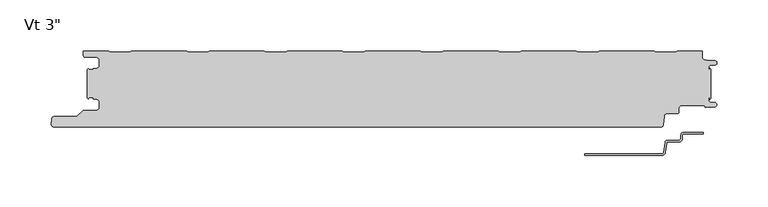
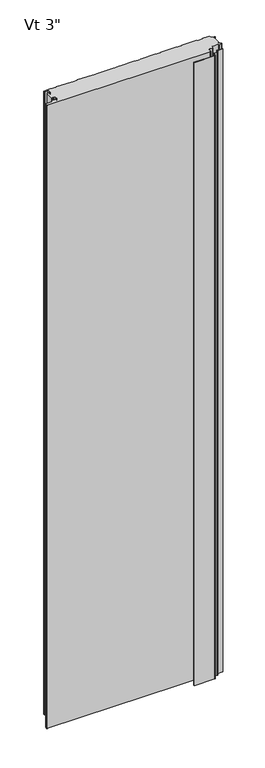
"""IFC4 building model written with IfcOpenShell, lengths in millimetres: plate geometry."""

from ifc_helpers import new_model, si_unit, frame, origin, place, context, project, spatial, polyline, circle_curve, source, transform, mapped, element, save
from ifc_brep_helpers import plane_surface, cylinder_surface, revolved_surface, advanced_brep


def plate_722da754(model_context):
    return source(origin(), model_context, "Body", "AdvancedBrep", [
        advanced_brep(
        [(278.4543181, -80.5008679, 0.0), (297.1995181, -80.5008679, 0.0), (297.1995181, -82.0248679, 0.0), (278.4543181, -82.0248679, 0.0), (276.9303181, -83.5488679, 0.0), (276.9303181, -86.6476679, 0.0), (273.4759181, -90.1020679, 0.0), (262.2633607, -90.1020679, 0.0), (261.5042604, -90.7976552, 0.0), (260.3094328, -100.3416507, 0.0), (257.2730313, -103.124, 0.0), (181.7057181, -103.1360323, 0.0), (181.7057181, -101.6, 0.0), (257.2730313, -101.6, 0.0), (258.7912321, -100.2088254, 0.0), (259.9860597, -90.6648299, 0.0), (262.2633607, -88.5780679, 0.0), (273.4759181, -88.5780679, 0.0), (275.4063181, -86.6476679, 0.0), (275.4063181, -83.5488679, 0.0), (278.4543181, -80.5008679, 2400.0), (275.4063181, -83.5488679, 2400.0), (275.4063181, -86.6476679, 2400.0), (273.4759181, -88.5780679, 2400.0), (262.2633607, -88.5780679, 2400.0), (259.9860597, -90.6648299, 2400.0), (258.7912321, -100.2088254, 2400.0), (257.2730313, -101.6, 2400.0), (181.7057181, -101.6, 2400.0), (181.7057181, -103.1360323, 2400.0), (257.2730313, -103.1360323, 2400.0), (260.3094328, -100.3416507, 2400.0), (261.5042604, -90.7976552, 2400.0), (262.2633607, -90.1020679, 2400.0), (273.4759181, -90.1020679, 2400.0), (276.9303181, -86.6476679, 2400.0), (276.9303181, -83.5488679, 2400.0), (278.4543181, -82.0248679, 2400.0), (297.1995181, -82.0248679, 2400.0), (297.1995181, -80.5008679, 2400.0)],
        [
            (0, 1),
            (1, 2),
            (2, 3),
            (3, 4, circle_curve(frame((278.4543181, -83.5488679, 0.0), z_axis=(0.0, 0.0, 1.0), x_axis=(0.0, 1.0, 0.0)), 1.524)),
            (4, 5),
            (5, 6, circle_curve(frame((273.4759181, -86.6476679, 0.0), z_axis=(0.0, 0.0, -1.0), x_axis=(0.0, 1.0, 0.0)), 3.4544)),
            (6, 7),
            (7, 8, circle_curve(frame((262.2633607, -90.8640679, 0.0), z_axis=(0.0, 0.0, 1.0), x_axis=(0.0, 1.0, 0.0)), 0.762)),
            (8, 9),
            (9, 10, circle_curve(frame((257.2730313, -100.076, 0.0), z_axis=(0.0, 0.0, -1.0), x_axis=(0.0, 1.0, 0.0)), 3.048)),
            (10, 11),
            (11, 12),
            (12, 13),
            (13, 14, circle_curve(frame((257.2730313, -100.076, 0.0), z_axis=(0.0, 0.0, 1.0), x_axis=(0.0, 1.0, 0.0)), 1.524)),
            (14, 15),
            (15, 16, circle_curve(frame((262.2633607, -90.8640679, 0.0), z_axis=(0.0, 0.0, -1.0), x_axis=(0.0, 1.0, 0.0)), 2.286)),
            (16, 17),
            (17, 18, circle_curve(frame((273.4759181, -86.6476679, 0.0), z_axis=(0.0, 0.0, 1.0), x_axis=(0.0, 1.0, 0.0)), 1.9304)),
            (18, 19),
            (19, 0, circle_curve(frame((278.4543181, -83.5488679, 0.0), z_axis=(0.0, 0.0, -1.0), x_axis=(0.0, 1.0, 0.0)), 3.048)),
            (20, 21, circle_curve(frame((278.4543181, -83.5488679, 2400.0), z_axis=(0.0, 0.0, 1.0), x_axis=(0.0, 1.0, 0.0)), 3.048)),
            (21, 22),
            (22, 23, circle_curve(frame((273.4759181, -86.6476679, 2400.0), z_axis=(0.0, 0.0, -1.0), x_axis=(0.0, 1.0, 0.0)), 1.9304)),
            (23, 24),
            (24, 25, circle_curve(frame((262.2633607, -90.8640679, 2400.0), z_axis=(0.0, 0.0, 1.0), x_axis=(0.0, 1.0, 0.0)), 2.286)),
            (25, 26),
            (26, 27, circle_curve(frame((257.2730313, -100.076, 2400.0), z_axis=(0.0, 0.0, -1.0), x_axis=(0.0, 1.0, 0.0)), 1.524)),
            (27, 28),
            (28, 29),
            (29, 30),
            (30, 31, circle_curve(frame((257.2730313, -100.076, 2400.0), z_axis=(0.0, 0.0, 1.0), x_axis=(0.0, 1.0, 0.0)), 3.048)),
            (31, 32),
            (32, 33, circle_curve(frame((262.2633607, -90.8640679, 2400.0), z_axis=(0.0, 0.0, -1.0), x_axis=(0.0, 1.0, 0.0)), 0.762)),
            (33, 34),
            (34, 35, circle_curve(frame((273.4759181, -86.6476679, 2400.0), z_axis=(0.0, 0.0, 1.0), x_axis=(0.0, 1.0, 0.0)), 3.4544)),
            (35, 36),
            (36, 37, circle_curve(frame((278.4543181, -83.5488679, 2400.0), z_axis=(0.0, 0.0, -1.0), x_axis=(0.0, 1.0, 0.0)), 1.524)),
            (37, 38),
            (38, 39),
            (39, 20),
            (2, 38),
            (37, 3),
            (15, 25),
            (24, 16),
            (7, 33),
            (32, 8),
            (5, 35),
            (34, 6),
            (1, 39),
            (36, 4),
            (9, 31),
            (30, 10),
            (13, 27),
            (26, 14),
            (0, 20),
            (12, 28),
            (29, 11),
            (23, 17),
            (18, 22),
            (21, 19),
        ],
        [
            plane_surface(frame((297.1995181, -101.6, 0.0), z_axis=(0.0, 0.0, -1.0), x_axis=(-1.0, 0.0, 0.0))),
            plane_surface(frame((297.1995181, -101.6, 2400.0), z_axis=(0.0, 0.0, 1.0), x_axis=(-1.0, 0.0, 0.0))),
            plane_surface(frame((278.4543181, -82.0248679, 0.0), z_axis=(0.0, -1.0, 0.0), x_axis=(0.0, 0.0, 1.0))),
            cylinder_surface(frame((262.2633607, -90.8640679, 0.0), z_axis=(0.0, 0.0, -1.0), x_axis=(0.0, 1.0, 0.0)), 2.286),
            revolved_surface(polyline([(262.2633607, -90.1020679, 2400.0), (262.2633607, -90.1020679, 0.0)]), (262.2633607, -90.8640679, 0.0), (0.0, 0.0, 1.0)),
            cylinder_surface(frame((273.4759181, -86.6476679, 0.0), z_axis=(0.0, 0.0, -1.0), x_axis=(0.0, 1.0, 0.0)), 3.4544),
            plane_surface(frame((297.1995181, -82.0248679, 0.0), z_axis=(1.0, 0.0, 0.0), x_axis=(0.0, 0.0, 1.0))),
            revolved_surface(polyline([(278.4543181, -82.0248679, 2400.0), (278.4543181, -82.0248679, 0.0)]), (278.4543181, -83.5488679, 0.0), (0.0, 0.0, 1.0)),
            cylinder_surface(frame((257.2730313, -100.076, 0.0), z_axis=(0.0, 0.0, -1.0), x_axis=(0.0, 1.0, 0.0)), 3.048),
            revolved_surface(polyline([(257.2730313, -98.55199999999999, 2400.0), (257.2730313, -98.55199999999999, 0.0)]), (257.2730313, -100.076, 0.0), (0.0, 0.0, 1.0)),
            plane_surface(frame((297.1995181, -80.5008679, 0.0), z_axis=(0.0, 1.0, 0.0), x_axis=(0.0, 0.0, 1.0))),
            plane_surface(frame((259.9860597, -90.6648299, 0.0), z_axis=(-0.992254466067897, 0.12422187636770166, 0.0), x_axis=(0.0, 0.0, 1.0))),
            plane_surface(frame((257.2730313, -101.6, 0.0), z_axis=(0.0, 1.0, 0.0), x_axis=(0.0, 0.0, 1.0))),
            plane_surface(frame((260.3094328, -100.3416507, 0.0), z_axis=(0.9922544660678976, -0.12422187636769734, 0.0), x_axis=(0.0, 0.0, 1.0))),
            plane_surface(frame((276.9303181, -86.6476679, 0.0), z_axis=(1.0, 0.0, 0.0), x_axis=(0.0, 0.0, 1.0))),
            plane_surface(frame((181.7057181, -103.1360323, 0.0), z_axis=(0.0, -1.0, 0.0), x_axis=(0.0, 0.0, 1.0))),
            plane_surface(frame((181.7057181, -101.6, 0.0), z_axis=(-1.0, 0.0, 0.0), x_axis=(0.0, 0.0, 1.0))),
            plane_surface(frame((273.4759181, -88.5780679, 0.0), z_axis=(0.0, 1.0, 0.0), x_axis=(0.0, 0.0, 1.0))),
            plane_surface(frame((275.4063181, -83.5488679, 0.0), z_axis=(-1.0, 0.0, 0.0), x_axis=(0.0, 0.0, 1.0))),
            plane_surface(frame((262.2633607, -90.1020679, 0.0), z_axis=(0.0, -1.0, 0.0), x_axis=(0.0, 0.0, 1.0))),
            revolved_surface(polyline([(273.4759181, -84.7172679, 2400.0), (273.4759181, -84.7172679, 0.0)]), (273.4759181, -86.6476679, 0.0), (0.0, 0.0, 1.0)),
            cylinder_surface(frame((278.4543181, -83.5488679, 0.0), z_axis=(0.0, 0.0, -1.0), x_axis=(0.0, 1.0, 0.0)), 3.048),
        ],
        [
            (0, [[1, 2, 3, 4, 5, 6, 7, 8, 9, 10, 11, 12, 13, 14, 15, 16, 17, 18, 19, 20]]),
            (1, [[21, 22, 23, 24, 25, 26, 27, 28, 29, 30, 31, 32, 33, 34, 35, 36, 37, 38, 39, 40]]),
            (2, [[41, -38, 42, -3]]),
            (3, [[43, -25, 44, -16]]),
            (4, [[45, -33, 46, -8]]),
            (5, [[47, -35, 48, -6]]),
            (6, [[49, -39, -41, -2]]),
            (7, [[-42, -37, 50, -4]]),
            (8, [[51, -31, 52, -10]]),
            (9, [[53, -27, 54, -14]]),
            (10, [[55, -40, -49, -1]]),
            (11, [[-54, -26, -43, -15]]),
            (12, [[56, -28, -53, -13]]),
            (13, [[-46, -32, -51, -9]]),
            (14, [[-50, -36, -47, -5]]),
            (15, [[-52, -30, 57, -11]]),
            (16, [[-57, -29, -56, -12]]),
            (17, [[-44, -24, 58, -17]]),
            (18, [[59, -22, 60, -19]]),
            (19, [[-48, -34, -45, -7]]),
            (20, [[-58, -23, -59, -18]]),
            (21, [[-60, -21, -55, -20]]),
        ],
    ),
        advanced_brep(
        [(-303.7683001, -47.870875, 2400.0), (-302.5671761, -46.7014003, 2400.0), (-298.8087827, -46.7014003, 2400.0), (-298.8087827, -48.0998791, 2400.0), (-296.1096717, -48.0998791, 2400.0), (-292.7596764, -51.4498744, 2400.0), (-292.7596764, -55.8498656, 2400.0), (-296.1096717, -59.1998609, 2400.0), (-307.9205608, -59.1998609, 2400.0), (-309.1226385, -59.6977778, 2400.0), (-314.6247096, -65.1998489, 2400.0), (-336.7198392, -65.1998489, 2400.0), (-339.3765709, -67.4184509, 2400.0), (-339.8125699, -72.4002718, 2400.0), (-337.2521176, -75.1945967, 2400.0), (256.315622, -75.2, 2400.0), (258.2669057, -73.4149259, 2400.0), (259.021161, -64.9539491, 2400.0), (262.1653654, -62.1906462, 2400.0), (272.2583308, -62.1906462, 2400.0), (273.2097394, -61.2392375, 2400.0), (273.2097394, -58.0955822, 2400.0), (277.2091924, -54.0961292, 2400.0), (298.3895515, -54.0961292, 2400.0), (299.5334028, -56.076977, 2400.0), (308.506811, -55.7217167, 2400.0), (308.5037148, -51.5211391, 2400.0), (304.4977997, -51.2767242, 2400.0), (302.7686884, -49.4819116, 2400.0), (302.7686884, -46.697365, 2400.0), (303.7686884, -46.697365, 2400.0), (303.7686884, -48.284865, 2400.0), (304.8, -47.2535534, 2400.0), (304.8, -18.6184525, 2400.0), (303.7686884, -17.5871409, 2400.0), (303.7686884, -19.0015288, 2400.0), (302.7686884, -19.0015288, 2400.0), (302.7686884, -16.6743462, 2400.0), (304.4513685, -14.9256429, 2400.0), (308.5921924, -14.7059822, 2400.0), (308.5931719, -10.4046442, 2400.0), (300.1016499, -9.9974365, 2400.0), (296.2787013, -6.0026007, 2400.0), (296.2787013, -1.0, 2400.0), (271.7794011, -1.0, 2400.0), (270.3937682, -2.2002307, 2400.0), (251.0186019, -2.2002307, 2400.0), (249.6329689, -1.0, 2400.0), (195.5795535, -1.0, 2400.0), (194.1939206, -2.2002307, 2400.0), (174.8187543, -2.2002307, 2400.0), (173.4331213, -1.0, 2400.0), (119.3797059, -1.0, 2400.0), (117.994073, -2.2002307, 2400.0), (98.6189067, -2.2002307, 2400.0), (97.2332737, -1.0, 2400.0), (43.1798583, -1.0, 2400.0), (41.7942254, -2.2002307, 2400.0), (22.4190591, -2.2002307, 2400.0), (21.0334261, -1.0, 2400.0), (-33.0199893, -1.0, 2400.0), (-34.4056222, -2.2002307, 2400.0), (-53.7807885, -2.2002307, 2400.0), (-55.1664215, -1.0, 2400.0), (-109.2198369, -1.0, 2400.0), (-110.6054698, -2.2002307, 2400.0), (-129.9806361, -2.2002307, 2400.0), (-131.3662691, -1.0, 2400.0), (-185.4196845, -1.0, 2400.0), (-186.8053174, -2.2002307, 2400.0), (-206.1804837, -2.2002307, 2400.0), (-207.5661167, -1.0, 2400.0), (-261.6195321, -1.0, 2400.0), (-263.005165, -2.2002307, 2400.0), (-282.3803313, -2.2002307, 2400.0), (-283.765974, -0.9999916, 2400.0), (-308.2662506, -0.9999916, 2400.0), (-308.2662506, -5.2315389, 2400.0), (-306.4962564, -7.0015331, 2400.0), (-296.0762778, -7.0015331, 2400.0), (-292.776282, -10.301529, 2400.0), (-292.776282, -14.7015202, 2400.0), (-296.0762777, -18.0015159, 2400.0), (-298.7684875, -18.0015159, 2400.0), (-298.7684875, -19.0015105, 2400.0), (-302.7686911, -19.0015105, 2400.0), (-303.7686883, -18.0015192, 2400.0), (-304.8, -19.0328308, 2400.0), (-304.8, -46.8391751, 2400.0), (-303.7683001, -47.870875, 0.0), (-304.8, -46.8391751, 0.0), (-304.8, -19.0328308, 0.0), (-303.7686883, -18.0015192, 0.0), (-302.7686911, -19.0015105, 0.0), (-298.7684875, -19.0015105, 0.0), (-298.7684875, -18.0015159, 0.0), (-296.0762777, -18.0015159, 0.0), (-292.776282, -14.7015202, 0.0), (-292.776282, -10.301529, 0.0), (-296.0762778, -7.0015331, 0.0), (-306.4962564, -7.0015331, 0.0), (-308.2662506, -5.2315389, 0.0), (-308.2662506, -0.9999916, 0.0), (-283.765974, -0.9999916, 0.0), (-282.3803313, -2.2002307, 0.0), (-263.005165, -2.2002307, 0.0), (-261.6195321, -1.0, 0.0), (-207.5661167, -1.0, 0.0), (-206.1804837, -2.2002307, 0.0), (-186.8053174, -2.2002307, 0.0), (-185.4196845, -1.0, 0.0), (-131.3662691, -1.0, 0.0), (-129.9806361, -2.2002307, 0.0), (-110.6054698, -2.2002307, 0.0), (-109.2198369, -1.0, 0.0), (-55.1664215, -1.0, 0.0), (-53.7807885, -2.2002307, 0.0), (-34.4056222, -2.2002307, 0.0), (-33.0199893, -1.0, 0.0), (21.0334261, -1.0, 0.0), (22.4190591, -2.2002307, 0.0), (41.7942254, -2.2002307, 0.0), (43.1798583, -1.0, 0.0), (97.2332737, -1.0, 0.0), (98.6189067, -2.2002307, 0.0), (117.994073, -2.2002307, 0.0), (119.3797059, -1.0, 0.0), (173.4331213, -1.0, 0.0), (174.8187543, -2.2002307, 0.0), (194.1939206, -2.2002307, 0.0), (195.5795535, -1.0, 0.0), (249.6329689, -1.0, 0.0), (251.0186019, -2.2002307, 0.0), (270.3937682, -2.2002307, 0.0), (271.7794011, -1.0, 0.0), (296.2787013, -1.0, 0.0), (296.2787013, -6.0026007, 0.0), (300.1016499, -9.9974365, 0.0), (308.5931719, -10.4046442, 0.0), (308.5921924, -14.7059822, 0.0), (304.4513685, -14.9256429, 0.0), (302.7686884, -16.6743462, 0.0), (302.7686884, -19.0015288, 0.0), (303.7686884, -19.0015288, 0.0), (303.7686884, -17.5871409, 0.0), (304.8, -18.6184525, 0.0), (304.8, -47.2535534, 0.0), (303.7686884, -48.284865, 0.0), (303.7686884, -46.697365, 0.0), (302.7686884, -46.697365, 0.0), (302.7686884, -49.4819116, 0.0), (304.4977997, -51.2767242, 0.0), (308.5037148, -51.5211391, 0.0), (308.506811, -55.7217167, 0.0), (299.5334028, -56.076977, 0.0), (298.3895515, -54.0961292, 0.0), (277.2091924, -54.0961292, 0.0), (273.2097394, -58.0955822, 0.0), (273.2097394, -61.2392375, 0.0), (272.2583308, -62.1906462, 0.0), (262.1653654, -62.1906462, 0.0), (259.021161, -64.9539491, 0.0), (258.2669057, -73.4149259, 0.0), (256.315622, -75.2, 0.0), (-337.2521176, -75.2, 0.0), (-339.8125699, -72.4002718, 0.0), (-339.3765709, -67.4184509, 0.0), (-336.7198392, -65.1998489, 0.0), (-314.6247096, -65.1998489, 0.0), (-309.1226385, -59.6977778, 0.0), (-307.9205608, -59.1998609, 0.0), (-296.1096717, -59.1998609, 0.0), (-292.7596764, -55.8498656, 0.0), (-292.7596764, -51.4498744, 0.0), (-296.1096717, -48.0998791, 0.0), (-298.8087827, -48.0998791, 0.0), (-298.8087827, -46.7014003, 0.0), (-302.5671761, -46.7014003, 0.0)],
        [
            (0, 1, circle_curve(frame((-302.5686908, -47.9013969, 2400.0), z_axis=(0.0, 0.0, -1.0), x_axis=(-1.0, 0.0, 0.0)), 1.1999976)),
            (1, 2),
            (2, 3),
            (3, 4),
            (4, 5, circle_curve(frame((-296.1096717, -51.4498744, 2400.0), z_axis=(0.0, 0.0, -1.0), x_axis=(-1.0, 0.0, 0.0)), 3.3499953)),
            (5, 6),
            (6, 7, circle_curve(frame((-296.1096717, -55.8498656, 2400.0), z_axis=(0.0, 0.0, -1.0), x_axis=(-1.0, 0.0, 0.0)), 3.3499953)),
            (7, 8),
            (8, 9, circle_curve(frame((-307.9205608, -60.8998555, 2400.0), z_axis=(0.0, 0.0, 1.0), x_axis=(-1.0, 0.0, 0.0)), 1.6999946)),
            (9, 10),
            (10, 11),
            (11, 12, circle_curve(frame((-336.7198392, -67.8998415, 2400.0), z_axis=(0.0, 0.0, 1.0), x_axis=(-1.0, 0.0, 0.0)), 2.6999926)),
            (12, 13),
            (13, 14, circle_curve(frame((-337.2521176, -72.6243575, 2400.0), z_axis=(0.0, 0.0, 1.0), x_axis=(-1.0, 0.0, 0.0)), 2.5702393)),
            (14, 15),
            (15, 16, circle_curve(frame((256.315622, -73.2409784, 2400.0), z_axis=(0.0, 0.0, 1.0), x_axis=(-1.0, 0.0, 0.0)), 1.9590216)),
            (16, 17),
            (17, 18, circle_curve(frame((262.0396267, -65.2180321, 2400.0), z_axis=(0.0, 0.0, -1.0), x_axis=(-1.0, 0.0, 0.0)), 3.0299959)),
            (18, 19),
            (19, 20, circle_curve(frame((272.2583308, -61.2392375, 2400.0), z_axis=(0.0, 0.0, 1.0), x_axis=(-1.0, 0.0, 0.0)), 0.9514087)),
            (20, 21),
            (21, 22, circle_curve(frame((277.2091924, -58.0955822, 2400.0), z_axis=(0.0, 0.0, -1.0), x_axis=(-1.0, 0.0, 0.0)), 3.9994529)),
            (22, 23),
            (23, 24),
            (24, 25),
            (25, 26, circle_curve(frame((308.4236622, -53.621488, 2400.0), z_axis=(0.0, 0.0, 1.0), x_axis=(-1.0, 0.0, 0.0)), 2.1018739)),
            (26, 27),
            (27, 28, circle_curve(frame((304.6099653, -49.4383506, 2400.0), z_axis=(0.0, 0.0, -1.0), x_axis=(-1.0, 0.0, 0.0)), 1.8417922)),
            (28, 29),
            (29, 30),
            (30, 31),
            (31, 32),
            (32, 33),
            (33, 34),
            (34, 35),
            (35, 36),
            (36, 37),
            (37, 38, circle_curve(frame((304.5186869, -16.6743462, 2400.0), z_axis=(0.0, 0.0, -1.0), x_axis=(1.0, 0.0, 0.0)), 1.7499985)),
            (38, 39),
            (39, 40, circle_curve(frame((308.4781032, -12.5552871, 2400.0), z_axis=(0.0, 0.0, 1.0), x_axis=(1.0, 0.0, 0.0)), 2.153719)),
            (40, 41),
            (41, 42, circle_curve(frame((300.2939817, -5.9867338, 2400.0), z_axis=(0.0, 0.0, -1.0), x_axis=(1.0, 0.0, 0.0)), 4.0153117)),
            (42, 43),
            (43, 44),
            (44, 45),
            (45, 46),
            (46, 47),
            (47, 48),
            (48, 49),
            (49, 50),
            (50, 51),
            (51, 52),
            (52, 53),
            (53, 54),
            (54, 55),
            (55, 56),
            (56, 57),
            (57, 58),
            (58, 59),
            (59, 60),
            (60, 61),
            (61, 62),
            (62, 63),
            (63, 64),
            (64, 65),
            (65, 66),
            (66, 67),
            (67, 68),
            (68, 69),
            (69, 70),
            (70, 71),
            (71, 72),
            (72, 73),
            (73, 74),
            (74, 75),
            (75, 76),
            (76, 77),
            (77, 78, circle_curve(frame((-306.4962564, -5.2315389, 2400.0), z_axis=(0.0, 0.0, 1.0), x_axis=(1.0, 0.0, 0.0)), 1.7699942)),
            (78, 79),
            (79, 80, circle_curve(frame((-296.0762778, -10.301529, 2400.0), z_axis=(0.0, 0.0, -1.0), x_axis=(1.0, 0.0, 0.0)), 3.2999959)),
            (80, 81),
            (81, 82, circle_curve(frame((-296.0762777, -14.7015202, 2400.0), z_axis=(0.0, 0.0, -1.0), x_axis=(1.0, 0.0, 0.0)), 3.2999957)),
            (82, 83),
            (83, 84),
            (84, 85),
            (85, 86, circle_curve(frame((-302.7686911, -18.0015133, 2400.0), z_axis=(0.0, 0.0, -1.0), x_axis=(1.0, 0.0, 0.0)), 0.9999972)),
            (86, 87),
            (87, 88),
            (88, 0),
            (89, 90),
            (90, 91),
            (91, 92),
            (92, 93, circle_curve(frame((-302.7686911, -18.0015133, 0.0), z_axis=(0.0, 0.0, 1.0), x_axis=(1.0, 0.0, 0.0)), 0.9999972)),
            (93, 94),
            (94, 95),
            (95, 96),
            (96, 97, circle_curve(frame((-296.0762777, -14.7015202, 0.0), z_axis=(0.0, 0.0, 1.0), x_axis=(1.0, 0.0, 0.0)), 3.2999957)),
            (97, 98),
            (98, 99, circle_curve(frame((-296.0762778, -10.301529, 0.0), z_axis=(0.0, 0.0, 1.0), x_axis=(1.0, 0.0, 0.0)), 3.2999959)),
            (99, 100),
            (100, 101, circle_curve(frame((-306.4962564, -5.2315389, 0.0), z_axis=(0.0, 0.0, -1.0), x_axis=(1.0, 0.0, 0.0)), 1.7699942)),
            (101, 102),
            (102, 103),
            (103, 104),
            (104, 105),
            (105, 106),
            (106, 107),
            (107, 108),
            (108, 109),
            (109, 110),
            (110, 111),
            (111, 112),
            (112, 113),
            (113, 114),
            (114, 115),
            (115, 116),
            (116, 117),
            (117, 118),
            (118, 119),
            (119, 120),
            (120, 121),
            (121, 122),
            (122, 123),
            (123, 124),
            (124, 125),
            (125, 126),
            (126, 127),
            (127, 128),
            (128, 129),
            (129, 130),
            (130, 131),
            (131, 132),
            (132, 133),
            (133, 134),
            (134, 135),
            (135, 136),
            (136, 137, circle_curve(frame((300.2939817, -5.9867338, 0.0), z_axis=(0.0, 0.0, 1.0), x_axis=(1.0, 0.0, 0.0)), 4.0153117)),
            (137, 138),
            (138, 139, circle_curve(frame((308.4781032, -12.5552871, 0.0), z_axis=(0.0, 0.0, -1.0), x_axis=(1.0, 0.0, 0.0)), 2.153719)),
            (139, 140),
            (140, 141, circle_curve(frame((304.5186869, -16.6743462, 0.0), z_axis=(0.0, 0.0, 1.0), x_axis=(1.0, 0.0, 0.0)), 1.7499985)),
            (141, 142),
            (142, 143),
            (143, 144),
            (144, 145),
            (145, 146),
            (146, 147),
            (147, 148),
            (148, 149),
            (149, 150),
            (150, 151, circle_curve(frame((304.6099653, -49.4383506, 0.0), z_axis=(0.0, 0.0, 1.0), x_axis=(-1.0, 0.0, 0.0)), 1.8417922)),
            (151, 152),
            (152, 153, circle_curve(frame((308.4236622, -53.621488, 0.0), z_axis=(0.0, 0.0, -1.0), x_axis=(-1.0, 0.0, 0.0)), 2.1018739)),
            (153, 154),
            (154, 155),
            (155, 156),
            (156, 157, circle_curve(frame((277.2091924, -58.0955822, 0.0), z_axis=(0.0, 0.0, 1.0), x_axis=(-1.0, 0.0, 0.0)), 3.9994529)),
            (157, 158),
            (158, 159, circle_curve(frame((272.2583308, -61.2392375, 0.0), z_axis=(0.0, 0.0, -1.0), x_axis=(-1.0, 0.0, 0.0)), 0.9514087)),
            (159, 160),
            (160, 161, circle_curve(frame((262.0396267, -65.2180321, 0.0), z_axis=(0.0, 0.0, 1.0), x_axis=(-1.0, 0.0, 0.0)), 3.0299959)),
            (161, 162),
            (162, 163, circle_curve(frame((256.315622, -73.2409784, 0.0), z_axis=(0.0, 0.0, -1.0), x_axis=(-1.0, 0.0, 0.0)), 1.9590216)),
            (163, 164),
            (164, 165, circle_curve(frame((-337.2521176, -72.6243575, 0.0), z_axis=(0.0, 0.0, -1.0), x_axis=(-1.0, 0.0, 0.0)), 2.5702393)),
            (165, 166),
            (166, 167, circle_curve(frame((-336.7198392, -67.8998415, 0.0), z_axis=(0.0, 0.0, -1.0), x_axis=(-1.0, 0.0, 0.0)), 2.6999926)),
            (167, 168),
            (168, 169),
            (169, 170, circle_curve(frame((-307.9205608, -60.8998555, 0.0), z_axis=(0.0, 0.0, -1.0), x_axis=(-1.0, 0.0, 0.0)), 1.6999946)),
            (170, 171),
            (171, 172, circle_curve(frame((-296.1096717, -55.8498656, 0.0), z_axis=(0.0, 0.0, 1.0), x_axis=(-1.0, 0.0, 0.0)), 3.3499953)),
            (172, 173),
            (173, 174, circle_curve(frame((-296.1096717, -51.4498744, 0.0), z_axis=(0.0, 0.0, 1.0), x_axis=(-1.0, 0.0, 0.0)), 3.3499953)),
            (174, 175),
            (175, 176),
            (176, 177),
            (177, 89, circle_curve(frame((-302.5686908, -47.9013969, 0.0), z_axis=(0.0, 0.0, 1.0), x_axis=(-1.0, 0.0, 0.0)), 1.1999976)),
            (88, 90),
            (89, 0),
            (87, 91),
            (32, 146),
            (145, 33),
            (31, 147),
            (30, 148),
            (29, 149),
            (28, 150),
            (27, 151),
            (26, 152),
            (25, 153),
            (24, 154),
            (23, 155),
            (22, 156),
            (21, 157),
            (20, 158),
            (19, 159),
            (18, 160),
            (17, 161),
            (16, 162),
            (15, 163),
            (14, 164),
            (13, 165),
            (12, 166),
            (11, 167),
            (10, 168),
            (9, 169),
            (8, 170),
            (7, 171),
            (6, 172),
            (5, 173),
            (4, 174),
            (3, 175),
            (2, 176),
            (1, 177),
            (86, 92),
            (85, 93),
            (84, 94),
            (83, 95),
            (82, 96),
            (81, 97),
            (80, 98),
            (79, 99),
            (78, 100),
            (77, 101),
            (76, 102),
            (41, 137),
            (136, 42),
            (40, 138),
            (39, 139),
            (38, 140),
            (37, 141),
            (36, 142),
            (35, 143),
            (34, 144),
            (74, 104),
            (103, 75),
            (73, 105),
            (72, 106),
            (71, 107),
            (70, 108),
            (69, 109),
            (68, 110),
            (67, 111),
            (66, 112),
            (65, 113),
            (64, 114),
            (63, 115),
            (62, 116),
            (61, 117),
            (60, 118),
            (59, 119),
            (58, 120),
            (57, 121),
            (56, 122),
            (55, 123),
            (54, 124),
            (53, 125),
            (52, 126),
            (51, 127),
            (50, 128),
            (49, 129),
            (48, 130),
            (47, 131),
            (46, 132),
            (45, 133),
            (44, 134),
            (43, 135),
        ],
        [
            plane_surface(frame((0.0, -75.2, 2400.0), z_axis=(0.0, 0.0, 1.0), x_axis=(0.0, -1.0, 0.0))),
            plane_surface(frame((0.0, -75.2, 0.0), z_axis=(0.0, 0.0, -1.0), x_axis=(0.0, -1.0, 0.0))),
            plane_surface(frame((-303.7683001, -47.870875, 2400.0), z_axis=(-0.7071067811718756, -0.7071067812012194, 0.0), x_axis=(0.0, 0.0, -1.0))),
            plane_surface(frame((-304.8, -46.8391751, 2400.0), z_axis=(-1.0, 0.0, 0.0), x_axis=(0.0, 0.0, -1.0))),
            plane_surface(frame((304.8, -45.8391751, 2400.0), z_axis=(1.0, 0.0, 0.0), x_axis=(0.0, 0.0, -1.0))),
            plane_surface(frame((304.8, -47.2535534, 2400.0), z_axis=(0.7071067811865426, -0.7071067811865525, 0.0), x_axis=(0.0, 0.0, -1.0))),
            plane_surface(frame((303.7686884, -48.284865, 2400.0), z_axis=(-1.0, 0.0, 0.0), x_axis=(0.0, 0.0, -1.0))),
            plane_surface(frame((303.7686884, -46.697365, 2400.0), z_axis=(0.0, -1.0, 0.0), x_axis=(0.0, 0.0, -1.0))),
            plane_surface(frame((302.7686884, -46.697365, 2400.0), z_axis=(1.0, 0.0, 0.0), x_axis=(0.0, 0.0, -1.0))),
            revolved_surface(polyline([(302.7681731, -49.4383506, 0.0), (302.7681731, -49.4383506, 2400.0)]), (304.6099653, -49.4383506, 2400.0), (0.0, 0.0, -1.0)),
            plane_surface(frame((304.4977997, -51.2767242, 2400.0), z_axis=(0.06090025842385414, 0.9981438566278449, 0.0), x_axis=(0.0, 0.0, -1.0))),
            cylinder_surface(frame((308.4236622, -53.621488, 2400.0), z_axis=(0.0, 0.0, 1.0), x_axis=(-1.0, 0.0, 0.0)), 2.1018739),
            plane_surface(frame((308.506811, -55.7217167, 2400.0), z_axis=(0.03955935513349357, -0.9992172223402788, 0.0), x_axis=(0.0, 0.0, -1.0))),
            plane_surface(frame((299.5334028, -56.076977, 2400.0), z_axis=(-0.8659859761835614, -0.5000682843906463, 0.0), x_axis=(0.0, 0.0, -1.0))),
            plane_surface(frame((298.3895515, -54.0961292, 2400.0), z_axis=(0.0, -1.0, 0.0), x_axis=(0.0, 0.0, -1.0))),
            revolved_surface(polyline([(273.2097395, -58.0955822, 0.0), (273.2097395, -58.0955822, 2400.0)]), (277.2091924, -58.0955822, 2400.0), (0.0, 0.0, -1.0)),
            plane_surface(frame((273.2097394, -58.0955822, 2400.0), z_axis=(1.0, 0.0, 0.0), x_axis=(0.0, 0.0, -1.0))),
            cylinder_surface(frame((272.2583308, -61.2392375, 2400.0), z_axis=(0.0, 0.0, 1.0), x_axis=(-1.0, 0.0, 0.0)), 0.9514087),
            plane_surface(frame((272.2583308, -62.1906462, 2400.0), z_axis=(0.0, -1.0, 0.0), x_axis=(0.0, 0.0, -1.0))),
            revolved_surface(polyline([(259.00963079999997, -65.2180321, 0.0), (259.00963079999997, -65.2180321, 2400.0)]), (262.0396267, -65.2180321, 2400.0), (0.0, 0.0, -1.0)),
            plane_surface(frame((259.021161, -64.9539491, 2400.0), z_axis=(0.9960500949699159, -0.08879306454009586, 0.0), x_axis=(0.0, 0.0, -1.0))),
            cylinder_surface(frame((256.315622, -73.2409784, 2400.0), z_axis=(0.0, 0.0, 1.0), x_axis=(-1.0, 0.0, 0.0)), 1.9590216),
            plane_surface(frame((256.315622, -75.2, 2400.0), z_axis=(0.0, -1.0, 0.0), x_axis=(0.0, 0.0, -1.0))),
            cylinder_surface(frame((-337.2521176, -72.6243575, 2400.0), z_axis=(0.0, 0.0, 1.0), x_axis=(-1.0, 0.0, 0.0)), 2.5702393),
            plane_surface(frame((-339.8125699, -72.4002718, 2400.0), z_axis=(-0.9961921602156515, 0.08718474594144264, 0.0), x_axis=(0.0, 0.0, -1.0))),
            cylinder_surface(frame((-336.7198392, -67.8998415, 2400.0), z_axis=(0.0, 0.0, 1.0), x_axis=(-1.0, 0.0, 0.0)), 2.6999926),
            plane_surface(frame((-336.7198392, -65.1998489, 2400.0), z_axis=(0.0, 1.0, 0.0), x_axis=(0.0, 0.0, -1.0))),
            plane_surface(frame((-314.6247096, -65.1998489, 2400.0), z_axis=(-0.7071067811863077, 0.7071067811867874, 0.0), x_axis=(0.0, 0.0, -1.0))),
            cylinder_surface(frame((-307.9205608, -60.8998555, 2400.0), z_axis=(0.0, 0.0, 1.0), x_axis=(-1.0, 0.0, 0.0)), 1.6999946),
            plane_surface(frame((-307.9205608, -59.1998609, 2400.0), z_axis=(0.0, 1.0, 0.0), x_axis=(0.0, 0.0, -1.0))),
            revolved_surface(polyline([(-299.45966699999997, -55.8498656, 0.0), (-299.45966699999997, -55.8498656, 2400.0)]), (-296.1096717, -55.8498656, 2400.0), (0.0, 0.0, -1.0)),
            plane_surface(frame((-292.7596764, -55.8498656, 2400.0), z_axis=(-1.0, 0.0, 0.0), x_axis=(0.0, 0.0, -1.0))),
            revolved_surface(polyline([(-299.45966699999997, -51.4498744, 0.0), (-299.45966699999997, -51.4498744, 2400.0)]), (-296.1096717, -51.4498744, 2400.0), (0.0, 0.0, -1.0)),
            plane_surface(frame((-296.1096717, -48.0998791, 2400.0), z_axis=(0.0, -1.0, 0.0), x_axis=(0.0, 0.0, -1.0))),
            plane_surface(frame((-298.8087827, -48.0998791, 2400.0), z_axis=(-1.0, 0.0, 0.0), x_axis=(0.0, 0.0, -1.0))),
            plane_surface(frame((-298.8087827, -46.7014003, 2400.0), z_axis=(0.0, -1.0, 0.0), x_axis=(0.0, 0.0, -1.0))),
            revolved_surface(polyline([(-303.76868840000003, -47.9013969, 0.0), (-303.76868840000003, -47.9013969, 2400.0)]), (-302.5686908, -47.9013969, 2400.0), (0.0, 0.0, -1.0)),
            plane_surface(frame((-304.8, -19.0328308, 2400.0), z_axis=(-0.7071067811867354, 0.7071067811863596, 0.0), x_axis=(0.0, 0.0, -1.0))),
            revolved_surface(polyline([(-301.7686939, -18.0015133, 0.0), (-301.7686939, -18.0015133, 2400.0)]), (-302.7686911, -18.0015133, 2400.0), (0.0, 0.0, -1.0)),
            plane_surface(frame((-302.7686911, -19.0015105, 2400.0), z_axis=(0.0, 1.0, 0.0), x_axis=(0.0, 0.0, -1.0))),
            plane_surface(frame((-298.7684875, -19.0015105, 2400.0), z_axis=(-1.0, 0.0, 0.0), x_axis=(0.0, 0.0, -1.0))),
            plane_surface(frame((-298.7684875, -18.0015159, 2400.0), z_axis=(0.0, 1.0, 0.0), x_axis=(0.0, 0.0, -1.0))),
            revolved_surface(polyline([(-292.776282, -14.7015202, 0.0), (-292.776282, -14.7015202, 2400.0)]), (-296.0762777, -14.7015202, 2400.0), (0.0, 0.0, -1.0)),
            plane_surface(frame((-292.776282, -14.7015202, 2400.0), z_axis=(-1.0, 0.0, 0.0), x_axis=(0.0, 0.0, -1.0))),
            revolved_surface(polyline([(-292.7762819, -10.301529, 0.0), (-292.7762819, -10.301529, 2400.0)]), (-296.0762778, -10.301529, 2400.0), (0.0, 0.0, -1.0)),
            plane_surface(frame((-296.0762778, -7.0015331, 2400.0), z_axis=(0.0, -1.0, 0.0), x_axis=(0.0, 0.0, -1.0))),
            cylinder_surface(frame((-306.4962564, -5.2315389, 2400.0), z_axis=(0.0, 0.0, 1.0), x_axis=(1.0, 0.0, 0.0)), 1.7699942),
            plane_surface(frame((-308.2662506, -5.2315389, 2400.0), z_axis=(-1.0, 0.0, 0.0), x_axis=(0.0, 0.0, -1.0))),
            revolved_surface(polyline([(304.3092934, -5.9867338, 0.0), (304.3092934, -5.9867338, 2400.0)]), (300.2939817, -5.9867338, 2400.0), (0.0, 0.0, -1.0)),
            plane_surface(frame((300.1016499, -9.9974365, 2400.0), z_axis=(0.047899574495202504, 0.9988521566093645, 0.0), x_axis=(0.0, 0.0, -1.0))),
            cylinder_surface(frame((308.4781032, -12.5552871, 2400.0), z_axis=(0.0, 0.0, 1.0), x_axis=(1.0, 0.0, 0.0)), 2.153719),
            plane_surface(frame((308.5921924, -14.7059822, 2400.0), z_axis=(0.05297310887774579, -0.9985959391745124, 0.0), x_axis=(0.0, 0.0, -1.0))),
            revolved_surface(polyline([(306.2686854, -16.6743462, 0.0), (306.2686854, -16.6743462, 2400.0)]), (304.5186869, -16.6743462, 2400.0), (0.0, 0.0, -1.0)),
            plane_surface(frame((302.7686884, -16.6743462, 2400.0), z_axis=(1.0, 0.0, 0.0), x_axis=(0.0, 0.0, -1.0))),
            plane_surface(frame((302.7686884, -19.0015288, 2400.0), z_axis=(0.0, 1.0, 0.0), x_axis=(0.0, 0.0, -1.0))),
            plane_surface(frame((303.7686884, -19.0015288, 2400.0), z_axis=(-1.0, 0.0, 0.0), x_axis=(0.0, 0.0, -1.0))),
            plane_surface(frame((303.7686884, -17.5871409, 2400.0), z_axis=(0.7071067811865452, 0.7071067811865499, 0.0), x_axis=(0.0, 0.0, -1.0))),
            plane_surface(frame((-283.765974, -0.9999916, 2400.0), z_axis=(0.6547276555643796, 0.7558648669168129, 0.0), x_axis=(0.0, 0.0, -1.0))),
            plane_surface(frame((-308.2662506, -0.9999916, 2400.0), z_axis=(0.0, 1.0, 0.0), x_axis=(0.0, 0.0, -1.0))),
            plane_surface(frame((-282.3803313, -2.2002307, 2400.0), z_axis=(0.0, 1.0, 0.0), x_axis=(0.0, 0.0, -1.0))),
            plane_surface(frame((-263.005165, -2.2002307, 2400.0), z_axis=(-0.6547276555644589, 0.7558648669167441, 0.0), x_axis=(0.0, 0.0, -1.0))),
            plane_surface(frame((-261.6195321, -1.0, 2400.0), z_axis=(0.0, 1.0, 0.0), x_axis=(0.0, 0.0, -1.0))),
            plane_surface(frame((-207.5661167, -1.0, 2400.0), z_axis=(0.6547276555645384, 0.7558648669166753, 0.0), x_axis=(0.0, 0.0, -1.0))),
            plane_surface(frame((-206.1804837, -2.2002307, 2400.0), z_axis=(0.0, 1.0, 0.0), x_axis=(0.0, 0.0, -1.0))),
            plane_surface(frame((-186.8053174, -2.2002307, 2400.0), z_axis=(-0.6547276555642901, 0.7558648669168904, 0.0), x_axis=(0.0, 0.0, -1.0))),
            plane_surface(frame((-185.4196845, -1.0, 2400.0), z_axis=(0.0, 1.0, 0.0), x_axis=(0.0, 0.0, -1.0))),
            plane_surface(frame((-131.3662691, -1.0, 2400.0), z_axis=(0.6547276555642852, 0.7558648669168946, 0.0), x_axis=(0.0, 0.0, -1.0))),
            plane_surface(frame((-129.9806361, -2.2002307, 2400.0), z_axis=(0.0, 1.0, 0.0), x_axis=(0.0, 0.0, -1.0))),
            plane_surface(frame((-110.6054698, -2.2002307, 2400.0), z_axis=(-0.6547276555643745, 0.7558648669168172, 0.0), x_axis=(0.0, 0.0, -1.0))),
            plane_surface(frame((-109.2198369, -1.0, 2400.0), z_axis=(0.0, 1.0, 0.0), x_axis=(0.0, 0.0, -1.0))),
            plane_surface(frame((-55.1664215, -1.0, 2400.0), z_axis=(0.6547276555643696, 0.7558648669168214, 0.0), x_axis=(0.0, 0.0, -1.0))),
            plane_surface(frame((-53.7807885, -2.2002307, 2400.0), z_axis=(0.0, 1.0, 0.0), x_axis=(0.0, 0.0, -1.0))),
            plane_surface(frame((-34.4056222, -2.2002307, 2400.0), z_axis=(-0.6547276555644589, 0.7558648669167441, 0.0), x_axis=(0.0, 0.0, -1.0))),
            plane_surface(frame((-33.0199893, -1.0, 2400.0), z_axis=(0.0, 1.0, 0.0), x_axis=(0.0, 0.0, -1.0))),
            plane_surface(frame((21.0334261, -1.0, 2400.0), z_axis=(0.654727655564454, 0.7558648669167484, 0.0), x_axis=(0.0, 0.0, -1.0))),
            plane_surface(frame((22.4190591, -2.2002307, 2400.0), z_axis=(0.0, 1.0, 0.0), x_axis=(0.0, 0.0, -1.0))),
            plane_surface(frame((41.7942254, -2.2002307, 2400.0), z_axis=(-0.6547276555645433, 0.7558648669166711, 0.0), x_axis=(0.0, 0.0, -1.0))),
            plane_surface(frame((43.1798583, -1.0, 2400.0), z_axis=(0.0, 1.0, 0.0), x_axis=(0.0, 0.0, -1.0))),
            plane_surface(frame((97.2332737, -1.0, 2400.0), z_axis=(0.6547276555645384, 0.7558648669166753, 0.0), x_axis=(0.0, 0.0, -1.0))),
            plane_surface(frame((98.6189067, -2.2002307, 2400.0), z_axis=(0.0, 1.0, 0.0), x_axis=(0.0, 0.0, -1.0))),
            plane_surface(frame((117.994073, -2.2002307, 2400.0), z_axis=(-0.654727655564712, 0.755864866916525, 0.0), x_axis=(0.0, 0.0, -1.0))),
            plane_surface(frame((119.3797059, -1.0, 2400.0), z_axis=(0.0, 1.0, 0.0), x_axis=(0.0, 0.0, -1.0))),
            plane_surface(frame((173.4331213, -1.0, 2400.0), z_axis=(0.6547276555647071, 0.7558648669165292, 0.0), x_axis=(0.0, 0.0, -1.0))),
            plane_surface(frame((174.8187543, -2.2002307, 2400.0), z_axis=(0.0, 1.0, 0.0), x_axis=(0.0, 0.0, -1.0))),
            plane_surface(frame((194.1939206, -2.2002307, 2400.0), z_axis=(-0.654727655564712, 0.755864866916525, 0.0), x_axis=(0.0, 0.0, -1.0))),
            plane_surface(frame((195.5795535, -1.0, 2400.0), z_axis=(0.0, 1.0, 0.0), x_axis=(0.0, 0.0, -1.0))),
            plane_surface(frame((249.6329689, -1.0, 2400.0), z_axis=(0.6547276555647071, 0.7558648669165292, 0.0), x_axis=(0.0, 0.0, -1.0))),
            plane_surface(frame((251.0186019, -2.2002307, 2400.0), z_axis=(0.0, 1.0, 0.0), x_axis=(0.0, 0.0, -1.0))),
            plane_surface(frame((270.3937682, -2.2002307, 2400.0), z_axis=(-0.6547276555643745, 0.7558648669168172, 0.0), x_axis=(0.0, 0.0, -1.0))),
            plane_surface(frame((271.7794011, -1.0, 2400.0), z_axis=(0.0, 1.0, 0.0), x_axis=(0.0, 0.0, -1.0))),
            plane_surface(frame((296.2787013, -1.0, 2400.0), z_axis=(1.0, 0.0, 0.0), x_axis=(0.0, 0.0, -1.0))),
        ],
        [
            (0, [[1, 2, 3, 4, 5, 6, 7, 8, 9, 10, 11, 12, 13, 14, 15, 16, 17, 18, 19, 20, 21, 22, 23, 24, 25, 26, 27, 28, 29, 30, 31, 32, 33, 34, 35, 36, 37, 38, 39, 40, 41, 42, 43, 44, 45, 46, 47, 48, 49, 50, 51, 52, 53, 54, 55, 56, 57, 58, 59, 60, 61, 62, 63, 64, 65, 66, 67, 68, 69, 70, 71, 72, 73, 74, 75, 76, 77, 78, 79, 80, 81, 82, 83, 84, 85, 86, 87, 88, 89]]),
            (1, [[90, 91, 92, 93, 94, 95, 96, 97, 98, 99, 100, 101, 102, 103, 104, 105, 106, 107, 108, 109, 110, 111, 112, 113, 114, 115, 116, 117, 118, 119, 120, 121, 122, 123, 124, 125, 126, 127, 128, 129, 130, 131, 132, 133, 134, 135, 136, 137, 138, 139, 140, 141, 142, 143, 144, 145, 146, 147, 148, 149, 150, 151, 152, 153, 154, 155, 156, 157, 158, 159, 160, 161, 162, 163, 164, 165, 166, 167, 168, 169, 170, 171, 172, 173, 174, 175, 176, 177, 178]]),
            (2, [[179, -90, 180, -89]]),
            (3, [[181, -91, -179, -88]]),
            (4, [[182, -146, 183, -33]]),
            (5, [[184, -147, -182, -32]]),
            (6, [[185, -148, -184, -31]]),
            (7, [[186, -149, -185, -30]]),
            (8, [[187, -150, -186, -29]]),
            (9, [[188, -151, -187, -28]]),
            (10, [[189, -152, -188, -27]]),
            (11, [[190, -153, -189, -26]]),
            (12, [[191, -154, -190, -25]]),
            (13, [[192, -155, -191, -24]]),
            (14, [[193, -156, -192, -23]]),
            (15, [[194, -157, -193, -22]]),
            (16, [[195, -158, -194, -21]]),
            (17, [[196, -159, -195, -20]]),
            (18, [[197, -160, -196, -19]]),
            (19, [[198, -161, -197, -18]]),
            (20, [[199, -162, -198, -17]]),
            (21, [[200, -163, -199, -16]]),
            (22, [[201, -164, -200, -15]]),
            (23, [[202, -165, -201, -14]]),
            (24, [[203, -166, -202, -13]]),
            (25, [[204, -167, -203, -12]]),
            (26, [[205, -168, -204, -11]]),
            (27, [[206, -169, -205, -10]]),
            (28, [[207, -170, -206, -9]]),
            (29, [[208, -171, -207, -8]]),
            (30, [[209, -172, -208, -7]]),
            (31, [[210, -173, -209, -6]]),
            (32, [[211, -174, -210, -5]]),
            (33, [[212, -175, -211, -4]]),
            (34, [[213, -176, -212, -3]]),
            (35, [[214, -177, -213, -2]]),
            (36, [[-180, -178, -214, -1]]),
            (37, [[215, -92, -181, -87]]),
            (38, [[216, -93, -215, -86]]),
            (39, [[217, -94, -216, -85]]),
            (40, [[218, -95, -217, -84]]),
            (41, [[219, -96, -218, -83]]),
            (42, [[220, -97, -219, -82]]),
            (43, [[221, -98, -220, -81]]),
            (44, [[222, -99, -221, -80]]),
            (45, [[223, -100, -222, -79]]),
            (46, [[224, -101, -223, -78]]),
            (47, [[225, -102, -224, -77]]),
            (48, [[226, -137, 227, -42]]),
            (49, [[228, -138, -226, -41]]),
            (50, [[229, -139, -228, -40]]),
            (51, [[230, -140, -229, -39]]),
            (52, [[231, -141, -230, -38]]),
            (53, [[232, -142, -231, -37]]),
            (54, [[233, -143, -232, -36]]),
            (55, [[234, -144, -233, -35]]),
            (56, [[-183, -145, -234, -34]]),
            (57, [[235, -104, 236, -75]]),
            (58, [[-236, -103, -225, -76]]),
            (59, [[237, -105, -235, -74]]),
            (60, [[238, -106, -237, -73]]),
            (61, [[239, -107, -238, -72]]),
            (62, [[240, -108, -239, -71]]),
            (63, [[241, -109, -240, -70]]),
            (64, [[242, -110, -241, -69]]),
            (65, [[243, -111, -242, -68]]),
            (66, [[244, -112, -243, -67]]),
            (67, [[245, -113, -244, -66]]),
            (68, [[246, -114, -245, -65]]),
            (69, [[247, -115, -246, -64]]),
            (70, [[248, -116, -247, -63]]),
            (71, [[249, -117, -248, -62]]),
            (72, [[250, -118, -249, -61]]),
            (73, [[251, -119, -250, -60]]),
            (74, [[252, -120, -251, -59]]),
            (75, [[253, -121, -252, -58]]),
            (76, [[254, -122, -253, -57]]),
            (77, [[255, -123, -254, -56]]),
            (78, [[256, -124, -255, -55]]),
            (79, [[257, -125, -256, -54]]),
            (80, [[258, -126, -257, -53]]),
            (81, [[259, -127, -258, -52]]),
            (82, [[260, -128, -259, -51]]),
            (83, [[261, -129, -260, -50]]),
            (84, [[262, -130, -261, -49]]),
            (85, [[263, -131, -262, -48]]),
            (86, [[264, -132, -263, -47]]),
            (87, [[265, -133, -264, -46]]),
            (88, [[266, -134, -265, -45]]),
            (89, [[267, -135, -266, -44]]),
            (90, [[-227, -136, -267, -43]]),
        ],
    ),
    ])


if __name__ == "__main__":
    model = new_model("IFC4")
    model_context = context("Model", 3, world=origin())
    ifc_project = project(units=[si_unit("LENGTHUNIT", "METRE", prefix="MILLI")], contexts=[model_context])
    site = spatial("IfcSite", under=ifc_project)
    building = spatial("IfcBuilding", under=site)
    placement = place(None, origin())
    plate_shape = plate_722da754(model_context)
    element("IfcPlate", 1, ObjectType="KIP-24-Karrier-KP-R19-CP-Vt-FL3-8in_SL : Vt 3\"", at=placement, inside=building, context=model_context, shape_type="MappedRepresentation", body=[
        mapped(plate_shape, transform((0.0, 0.0, 0.0), x_axis=(1.0, 0.0, 0.0), y_axis=(0.0, 1.0, 0.0), z_axis=(0.0, 0.0, 1.0))),
    ])
    save(model, "model.ifc")
